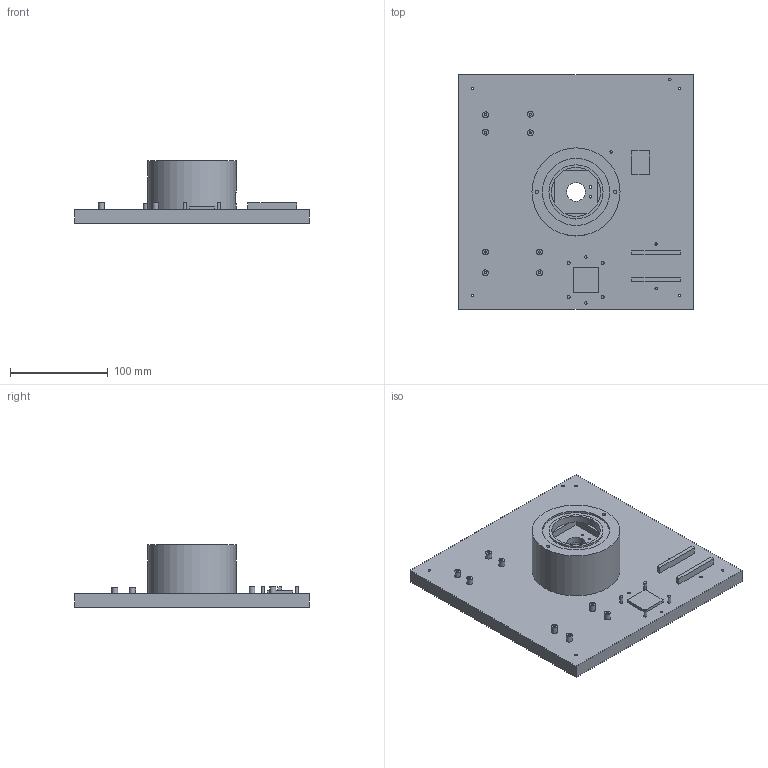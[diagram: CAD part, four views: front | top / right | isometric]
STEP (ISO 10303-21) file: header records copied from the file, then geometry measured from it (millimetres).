
FILE_DESCRIPTION(('Open CASCADE Model'),'2;1');
FILE_NAME('Open CASCADE Shape Model','2026-07-25T17:39:13',('Author'),( 'Open CASCADE'),'Open CASCADE STEP processor 7.9','build123d', 'Unknown');
FILE_SCHEMA(('AUTOMOTIVE_DESIGN { 1 0 10303 214 1 1 1 1 }'));
Length unit declared in the file: millimetre
Products named in the file (1): COMPOUND
Bounding box: 240 x 240 x 64 mm (x, y, z)
Volume: 1024226.9 mm3; surface area: 160048.6 mm2
Topology: 1 solids, 1 shells, 395 faces, 1002 edges, 668 vertices
Faces by surface type: plane 183, extrusion 171, cylinder 41
Full cylindrical faces by diameter (mm): 2.2 x8, 2.5 x14, 3 x4, 3.4 x2, 6 x8, 19 x1, 50 x1, 55.4 x1, 68.6 x1, 90 x1
Entity records: 29205 total; most frequent: CARTESIAN_POINT 10603, DIRECTION 2660, ORIENTED_EDGE 2004, PCURVE 2004, DEFINITIONAL_REPRESENTATION 2004, VECTOR 1928, LINE 1757, B_SPLINE_CURVE_WITH_KNOTS 1232
